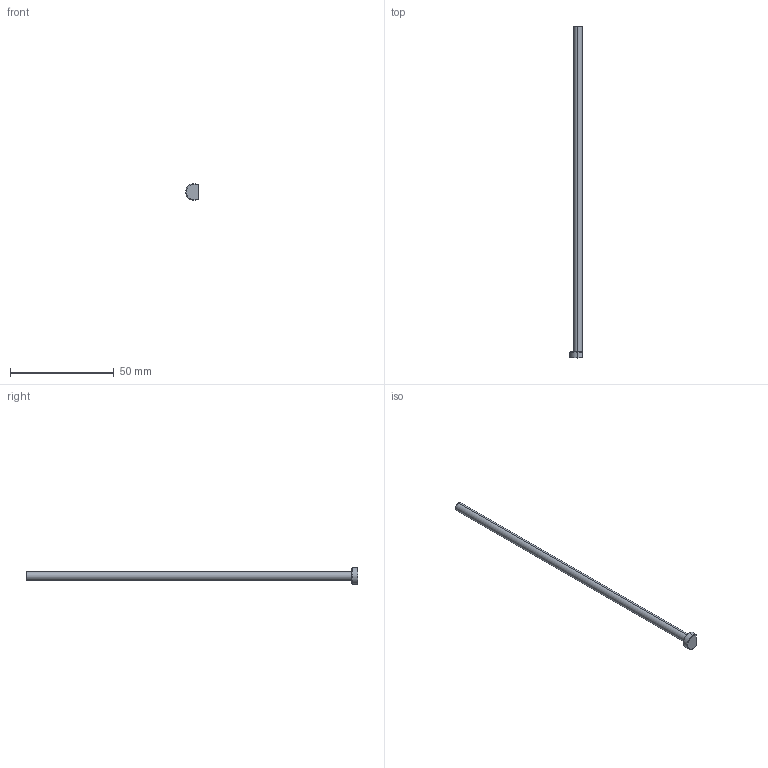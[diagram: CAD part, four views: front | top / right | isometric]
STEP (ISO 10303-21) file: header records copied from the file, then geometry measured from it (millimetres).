
FILE_DESCRIPTION (( 'STEP AP203' ), '1' );
FILE_NAME ('EPD042L160-K.step', '2022-04-08T20:03:22', ( 'Microsoft Corporation' ), ( 'MS' ), 'SwSTEP 2.0', 'SolidWorks 2019', '' );
FILE_SCHEMA (( 'CONFIG_CONTROL_DESIGN' ));
Length unit declared in the file: millimetre
Products named in the file (1): EPD042L160-K
Bounding box: 6.1 x 160 x 8 mm (x, y, z)
Volume: 2298 mm3; surface area: 2220.1 mm2
Topology: 1 solids, 1 shells, 18 faces, 41 edges, 25 vertices
Faces by surface type: cone 6, cylinder 5, plane 4, torus 3
Entity records: 598 total; most frequent: CARTESIAN_POINT 107, DIRECTION 95, ORIENTED_EDGE 82, AXIS2_PLACEMENT_3D 41, EDGE_CURVE 41, VERTEX_POINT 25, CIRCLE 22, ADVANCED_FACE 18
